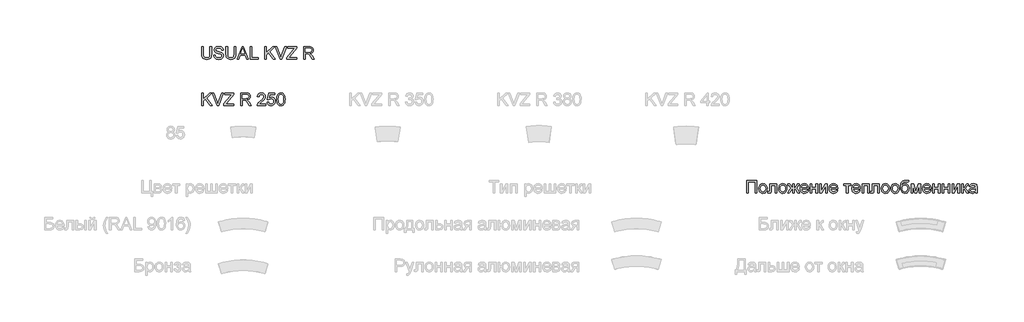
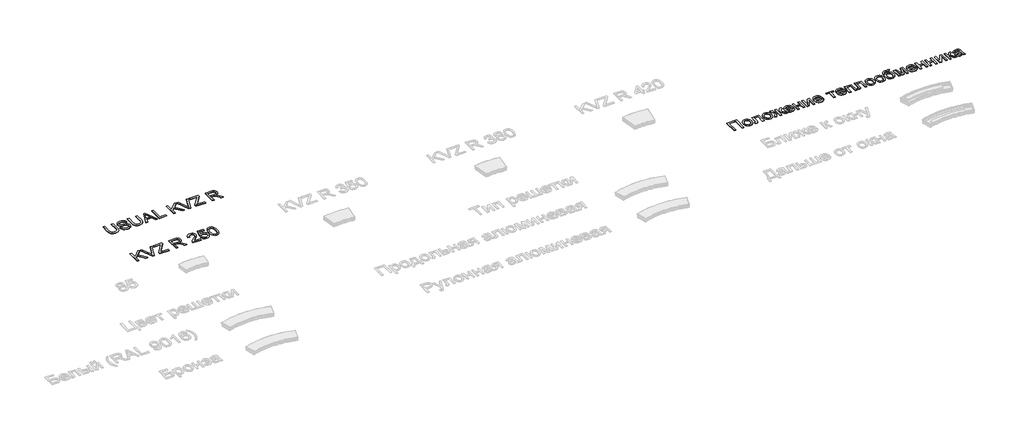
# One storey, part 8 of 9: 3 proxies.
"""IFC4 building model written with IfcOpenShell, lengths in millimetres."""

from ifc_helpers import new_model, si_unit, origin, origin_with_axes, place, context, project, spatial, polyline, outline, extrude, element, save

model = new_model("IFC4")

# Units and contexts
model_context = context("Model", 3, world=origin())
ifc_project = project(units=[si_unit("LENGTHUNIT", "METRE", prefix="MILLI")], contexts=[model_context])

# Site, building, storey
site = spatial("IfcSite", under=ifc_project)
building = spatial("IfcBuilding", under=site)
storey = spatial("IfcBuildingStorey", under=building, Name="Уровень 1", Elevation=0.0)

# Proxies
placement = place(None, origin())
element("IfcBuildingElementProxy", 1, Name="Текст модели 1", ObjectType="Текст модели 1", at=placement, inside=storey, context=model_context, shape_type="SweptSolid", body=[
    extrude(outline(polyline([(1233.0814119, 1658.8676202), (1270.7525282, 1658.8676202), (1270.7525282, 1485.0065893), (1268.1957483, 1444.2912495), (1260.5254087, 1412.9385065), (1246.196405, 1388.7502653), (1223.6636328, 1369.528431), (1192.8719098, 1356.9744579), (1153.7660537, 1352.7898002), (1115.5155233, 1356.431832), (1084.9353324, 1367.3579273), (1062.0162841, 1385.191007), (1046.7491813, 1409.5539921), (1038.1683338, 1442.2311103), (1035.3080513, 1485.0065893), (1035.3080513, 1658.8676202), (1072.9791676, 1658.8676202), (1072.9791676, 1486.3309645), (1074.8369717, 1452.4766239), (1080.4103839, 1428.904585), (1090.5087447, 1412.5798215), (1105.9413944, 1400.4673068), (1126.0645395, 1392.9625141), (1150.2343866, 1390.4609166), (1188.5492964, 1395.4089294), (1202.8920957, 1401.5939454), (1214.0251245, 1410.2529679), (1222.3622503, 1422.4298619), (1228.3173401, 1439.1684927), (1233.0814119, 1486.3309645), (1233.0814119, 1658.8676202)])), origin_with_axes(), (0.0, 0.0, 1.0), 10.0),
    extrude(outline(polyline([(1322.5503131, 1461.0942596), (1360.2214294, 1461.0942596), (1364.5440429, 1440.1893653), (1372.3615353, 1423.3863551), (1384.5568234, 1410.0506328), (1402.0128241, 1399.5476018), (1423.3499798, 1392.7325879), (1447.1887331, 1390.4609166), (1468.1764009, 1392.1807649), (1486.5521066, 1397.3403099), (1501.4421303, 1405.5072902), (1511.9727524, 1416.2494444), (1518.2359434, 1428.5826883), (1520.3236737, 1441.5229375), (1518.7601753, 1454.1320929), (1514.0696798, 1465.030597), (1504.5415361, 1474.3288144), (1488.4650929, 1482.1371098), (1433.6138875, 1496.5212958), (1397.6074372, 1506.0402424), (1374.5688272, 1515.0993365), (1355.8160425, 1527.7728713), (1342.5263055, 1543.1319446), (1334.6076455, 1560.8454626), (1331.9680922, 1580.5823317), (1335.2330449, 1602.6460543), (1345.027903, 1623.2198549), (1361.0951492, 1640.6574615), (1383.1772659, 1653.3126021), (1409.6831637, 1661.0105329), (1439.0217528, 1663.5765098), (1470.8067572, 1660.8909712), (1498.618636, 1652.8343555), (1521.4641079, 1639.5722096), (1538.3498915, 1621.2700803), (1549.0368635, 1599.0684019), (1553.2859005, 1574.1076085), (1515.6147842, 1574.1076085), (1508.6986027, 1596.5851985), (1494.2776285, 1612.8087944), (1471.7448563, 1622.6312437), (1440.4932808, 1625.9053935), (1408.5059413, 1622.6680319), (1386.5617803, 1612.9559472), (1373.8698515, 1598.6637317), (1369.6392085, 1581.6859776), (1372.6374468, 1567.2098211), (1381.6321615, 1555.566356), (1402.8957409, 1545.1552955), (1443.1420311, 1534.5235059), (1484.6759084, 1524.4251451), (1509.8022487, 1515.6143713), (1531.2773601, 1501.9475552), (1546.2593544, 1485.0801657), (1555.0609311, 1465.1961439), (1557.99479, 1442.4794307), (1554.6194727, 1419.2568797), (1544.4935208, 1397.4138863), (1528.0308015, 1378.6151163), (1505.6451821, 1364.5252359), (1478.7254171, 1355.7236592), (1448.6602611, 1352.7898002), (1411.7524999, 1355.9535854), (1381.3746442, 1365.4449409), (1357.1772059, 1381.3006549), (1338.8106973, 1403.5575156), (1327.0200794, 1430.6704186), (1322.5503131, 1461.0942596)])), origin_with_axes(), (0.0, 0.0, 1.0), 10.0),
    extrude(outline(polyline([(1812.2748251, 1658.8676202), (1849.9459414, 1658.8676202), (1849.9459414, 1485.0065893), (1847.3891615, 1444.2912495), (1839.7188219, 1412.9385065), (1825.3898182, 1388.7502653), (1802.857046, 1369.528431), (1772.065323, 1356.9744579), (1732.9594669, 1352.7898002), (1694.7089365, 1356.431832), (1664.1287456, 1367.3579273), (1641.2096973, 1385.191007), (1625.9425945, 1409.5539921), (1617.361747, 1442.2311103), (1614.5014645, 1485.0065893), (1614.5014645, 1658.8676202), (1652.1725808, 1658.8676202), (1652.1725808, 1486.3309645), (1654.0303849, 1452.4766239), (1659.6037971, 1428.904585), (1669.7021579, 1412.5798215), (1685.1348076, 1400.4673068), (1705.2579527, 1392.9625141), (1729.4277998, 1390.4609166), (1767.7427096, 1395.4089294), (1782.0855089, 1401.5939454), (1793.2185378, 1410.2529679), (1801.5556635, 1422.4298619), (1807.5107533, 1439.1684927), (1812.2748251, 1486.3309645), (1812.2748251, 1658.8676202)])), origin_with_axes(), (0.0, 0.0, 1.0), 10.0),
    extrude(outline(polyline([(1880.7744526, 1357.4986898), (2001.071865, 1658.8676202), (2033.151175, 1658.8676202), (2153.4485874, 1357.4986898), (2113.6437556, 1357.4986898), (2079.1364244, 1451.6764806), (1955.0130392, 1451.6764806), (1920.5792845, 1357.4986898), (1880.7744526, 1357.4986898)]), holes=[polyline([(1968.8454023, 1489.3475969), (2065.3776378, 1489.3475969), (2038.2279465, 1563.4390307), (2017.11152, 1621.1965039), (1998.3495383, 1569.9137538), (1968.8454023, 1489.3475969)])]), origin_with_axes(), (0.0, 0.0, 1.0), 10.0),
    extrude(outline(polyline([(2193.6948777, 1357.4986898), (2193.6948777, 1658.8676202), (2231.365994, 1658.8676202), (2231.365994, 1395.1698061), (2382.0504592, 1395.1698061), (2382.0504592, 1357.4986898), (2193.6948777, 1357.4986898)])), origin_with_axes(), (0.0, 0.0, 1.0), 10.0),
    extrude(outline(polyline([(2909.0046291, 1357.4986898), (2789.0750987, 1658.8676202), (2829.3949654, 1658.8676202), (2909.6668167, 1441.7436667), (2925.9272009, 1392.8153613), (2941.9668559, 1441.7436667), (3022.4594364, 1658.8676202), (3062.7793031, 1658.8676202), (2947.9265442, 1357.4986898), (2909.0046291, 1357.4986898)])), origin_with_axes(), (0.0, 0.0, 1.0), 10.0),
    extrude(outline(polyline([(2542.1527035, 1357.4986898), (2542.1527035, 1658.8676202), (2579.8238198, 1658.8676202), (2579.8238198, 1511.3469402), (2734.3342578, 1658.8676202), (2787.0149595, 1658.8676202), (2657.299768, 1534.9649643), (2791.7238491, 1357.4986898), (2745.6650233, 1357.4986898), (2630.5915352, 1509.5075302), (2579.8238198, 1461.0942596), (2579.8238198, 1357.4986898), (2542.1527035, 1357.4986898)])), origin_with_axes(), (0.0, 0.0, 1.0), 10.0),
    extrude(outline(polyline([(3074.2572214, 1357.4986898), (3074.2572214, 1396.5677577), (3228.3997773, 1585.2912212), (3257.6831842, 1621.1965039), (3093.0927795, 1621.1965039), (3093.0927795, 1658.8676202), (3304.9928087, 1658.8676202), (3304.9928087, 1621.1965039), (3136.2821257, 1414.6675518), (3120.3896236, 1395.1698061), (3309.7016983, 1395.1698061), (3309.7016983, 1357.4986898), (3074.2572214, 1357.4986898)])), origin_with_axes(), (0.0, 0.0, 1.0), 10.0),
    extrude(outline(polyline([(3469.8039426, 1357.4986898), (3469.8039426, 1658.8676202), (3599.6662869, 1658.8676202), (3634.5690912, 1656.8350722), (3659.9621459, 1650.7374281), (3678.5217925, 1639.4802391), (3692.9243726, 1621.9690561), (3702.1674078, 1600.2548214), (3705.2484195, 1576.3884769), (3700.1440568, 1546.7003999), (3684.8309688, 1522.0890944), (3673.2311896, 1512.0597115), (3658.8493028, 1504.0444826), (3621.7392066, 1494.0564864), (3643.1499387, 1477.943255), (3673.6841443, 1439.1684927), (3723.9368248, 1357.4986898), (3680.1588674, 1357.4986898), (3640.9426467, 1419.9650526), (3612.6157331, 1461.3149888), (3592.7133172, 1480.8495228), (3574.797464, 1488.0232217), (3552.9452735, 1489.3475969), (3507.4750589, 1489.3475969), (3507.4750589, 1357.4986898), (3469.8039426, 1357.4986898)]), holes=[polyline([(3507.4750589, 1527.0187132), (3591.7936122, 1527.0187132), (3616.0094445, 1528.3522854), (3634.7990174, 1532.3530021), (3648.9440801, 1539.2875777), (3659.2263819, 1549.4227267), (3665.4895729, 1561.6823942), (3667.5773032, 1574.9905253), (3663.5949806, 1593.366231), (3651.6480128, 1608.1734813), (3631.0926063, 1617.9407483), (3601.2849676, 1621.1965039), (3507.4750589, 1621.1965039), (3507.4750589, 1527.0187132)])]), origin_with_axes(), (0.0, 0.0, 1.0), 10.0),
])
element("IfcBuildingElementProxy", 2, Name="Текст модели 1", ObjectType="Текст модели 1", at=placement, inside=storey, context=model_context, shape_type="SweptSolid", body=[
    extrude(outline(polyline([(1035.3080513, 251.120589), (1035.3080513, 552.4895194), (1072.9791676, 552.4895194), (1072.9791676, 404.9688394), (1227.4896056, 552.4895194), (1280.1703073, 552.4895194), (1150.4551158, 428.5868634), (1284.8791968, 251.120589), (1238.820371, 251.120589), (1123.7468829, 403.1294294), (1072.9791676, 354.7161588), (1072.9791676, 251.120589), (1035.3080513, 251.120589)])), origin_with_axes(), (0.0, 0.0, 1.0), 10.0),
    extrude(outline(polyline([(1402.1599769, 251.120589), (1282.2304465, 552.4895194), (1322.5503131, 552.4895194), (1402.8221645, 335.3655659), (1419.0825487, 286.4372605), (1435.1222036, 335.3655659), (1515.6147842, 552.4895194), (1555.9346509, 552.4895194), (1441.081892, 251.120589), (1402.1599769, 251.120589)])), origin_with_axes(), (0.0, 0.0, 1.0), 10.0),
    extrude(outline(polyline([(1567.4125691, 251.120589), (1567.4125691, 290.1896569), (1721.5551251, 478.9131204), (1750.8385319, 514.8184031), (1586.2481273, 514.8184031), (1586.2481273, 552.4895194), (1798.1481565, 552.4895194), (1798.1481565, 514.8184031), (1629.4374735, 308.289451), (1613.5449713, 288.7917053), (1802.857046, 288.7917053), (1802.857046, 251.120589), (1567.4125691, 251.120589)])), origin_with_axes(), (0.0, 0.0, 1.0), 10.0),
    extrude(outline(polyline([(1962.9592903, 251.120589), (1962.9592903, 552.4895194), (2092.8216346, 552.4895194), (2127.7244389, 550.4569714), (2153.1174936, 544.3593273), (2171.6771403, 533.1021383), (2186.0797204, 515.5909553), (2195.3227555, 493.8767205), (2198.4037672, 470.0103761), (2193.2994046, 440.3222991), (2177.9863165, 415.7109936), (2166.3865373, 405.6816107), (2152.0046506, 397.6663817), (2114.8945543, 387.6783856), (2136.3052865, 371.5651542), (2166.8394921, 332.7903919), (2217.0921726, 251.120589), (2173.3142152, 251.120589), (2134.0979945, 313.5869517), (2105.7710809, 354.936888), (2085.8686649, 374.471422), (2067.9528118, 381.6451209), (2046.1006212, 382.969496), (2000.6304066, 382.969496), (2000.6304066, 251.120589), (1962.9592903, 251.120589)]), holes=[polyline([(2000.6304066, 420.6406123), (2084.9489599, 420.6406123), (2109.1647923, 421.9741846), (2127.9543652, 425.9749013), (2142.0994279, 432.9094769), (2152.3817296, 443.0446259), (2158.6449206, 455.3042933), (2160.7326509, 468.6124245), (2156.7503283, 486.9881302), (2144.8033605, 501.7953805), (2124.2479541, 511.5626475), (2094.4403154, 514.8184031), (2000.6304066, 514.8184031), (2000.6304066, 420.6406123)])]), origin_with_axes(), (0.0, 0.0, 1.0), 10.0),
    extrude(outline(polyline([(2560.9882617, 288.7917053), (2560.9882617, 251.120589), (2363.2149011, 251.120589), (2367.261603, 277.0930578), (2376.5506234, 297.3909469), (2390.1438631, 317.0818307), (2409.8071558, 337.6924195), (2437.3063349, 360.7494235), (2477.9572954, 396.8570414), (2502.3478717, 423.5100919), (2514.5431598, 445.1415532), (2518.6082558, 466.1844033), (2514.773086, 485.0475527), (2503.2675766, 500.7285227), (2485.5816497, 511.295933), (2463.2052274, 514.8184031), (2439.7067649, 511.3787065), (2421.4506209, 501.0596165), (2409.6692, 484.6704736), (2405.5949069, 463.0206182), (2367.9237906, 467.7295077), (2377.0564611, 504.1682194), (2385.6028197, 518.7041567), (2396.8025272, 530.7844817), (2410.3980662, 540.2804357), (2426.1319193, 547.06326), (2464.0145678, 552.4895194), (2484.2043915, 550.9812032), (2502.1731277, 546.4562547), (2517.9207764, 538.9146738), (2531.4473375, 528.3564605), (2542.3113526, 515.5633642), (2550.0713635, 501.3171339), (2554.72737, 485.6177697), (2556.2793721, 468.4652717), (2554.6055091, 450.448251), (2549.5839198, 432.74393), (2540.6719785, 414.7361063), (2527.3270591, 395.8085777), (2506.0542828, 373.2114261), (2473.3587704, 344.1947337), (2430.0222714, 307.9583572), (2413.0261232, 288.7917053), (2560.9882617, 288.7917053)])), origin_with_axes(), (0.0, 0.0, 1.0), 10.0),
    extrude(outline(polyline([(2598.659378, 331.1717111), (2636.3304943, 335.8806007), (2643.2466758, 313.265055), (2655.3132052, 297.0690502), (2672.4749003, 287.3293743), (2694.6765787, 284.0828157), (2721.6791172, 288.5985672), (2741.9126269, 302.1458217), (2754.5493734, 323.1610807), (2758.7616223, 350.0808457), (2754.8160879, 375.4279151), (2742.9794847, 394.8152963), (2723.1598422, 407.120949), (2695.2651899, 411.2228333), (2676.9906518, 409.5857584), (2662.1925986, 404.6745338), (2641.0393838, 387.6783856), (2603.3682675, 392.3872751), (2636.3304943, 547.7806299), (2782.30607, 547.7806299), (2782.30607, 510.1095136), (2666.7911235, 510.1095136), (2650.6778921, 427.1153355), (2677.5884601, 443.449296), (2705.786615, 448.8939496), (2724.1324302, 447.2062909), (2740.9837249, 442.143315), (2756.3404989, 433.7050217), (2770.2027523, 421.8914111), (2781.6783713, 407.4244517), (2789.875242, 391.0261117), (2794.7933645, 372.6963913), (2796.4327386, 352.4352904), (2790.5282326, 314.7641741), (2783.1476, 297.9703611), (2772.8147145, 282.5377114), (2757.1613356, 266.7325811), (2738.8959946, 255.4432024), (2718.0186913, 248.6695752), (2694.5294259, 246.4116994), (2657.5296943, 252.2150379), (2641.8510235, 259.469211), (2628.0531494, 269.6250533), (2616.5729319, 282.1767271), (2607.8472308, 296.6183947), (2598.659378, 331.1717111)])), origin_with_axes(), (0.0, 0.0, 1.0), 10.0),
    extrude(outline(polyline([(2829.3949654, 399.377033), (2832.1632774, 447.6155596), (2840.4682134, 486.0868193), (2854.227, 515.3794232), (2873.3568638, 536.0819824), (2897.9957604, 548.3876352), (2928.2816457, 552.4895194), (2951.4949996, 550.0614982), (2972.2803323, 542.7774347), (2989.6627566, 530.9224375), (3002.6673851, 514.7816149), (3012.4898344, 494.4929229), (3020.3257209, 470.1943171), (3025.4576747, 439.3382148), (3027.168326, 399.377033), (3024.4276051, 351.4144179), (3016.2054425, 313.0351288), (3002.5294293, 283.7149337), (2983.4271567, 262.929601), (2958.7330778, 250.5411748), (2928.2816457, 246.4116994), (2907.5331011, 248.2051242), (2889.1390014, 253.5853983), (2873.0993464, 262.552522), (2859.4141362, 275.1064951), (2846.2807489, 297.8002156), (2836.8997581, 326.0765455), (2831.2711635, 359.9354846), (2829.3949654, 399.377033)]), holes=[polyline([(2867.0660817, 399.4506094), (2871.4806656, 340.1940171), (2876.9988955, 319.9260184), (2884.7244174, 305.8982181), (2904.4428924, 289.5366663), (2928.2816457, 284.0828157), (2952.120399, 289.5550604), (2971.8388739, 305.9717944), (2979.5643958, 320.0225874), (2985.0826257, 340.2859875), (2989.4972097, 399.4506094), (2985.2297785, 457.3736296), (2979.8954896, 477.5749496), (2972.4274851, 491.936143), (2952.7457984, 509.0978381), (2927.8401873, 514.8184031), (2904.2589514, 509.7784198), (2885.3130286, 494.6584698), (2877.3299893, 479.023485), (2871.6278184, 457.9438467), (2867.0660817, 399.4506094)])]), origin_with_axes(), (0.0, 0.0, 1.0), 10.0),
])
element("IfcBuildingElementProxy", 3, Name="Текст модели 1", ObjectType="Текст модели 1", at=placement, inside=storey, context=model_context, shape_type="SweptSolid", body=[
    extrude(outline(polyline([(14066.2626064, -1545.5091747), (14301.7070833, -1545.5091747), (14301.7070833, -1846.8781051), (14264.035967, -1846.8781051), (14264.035967, -1583.180291), (14103.9337227, -1583.180291), (14103.9337227, -1846.8781051), (14066.2626064, -1846.8781051), (14066.2626064, -1545.5091747)])), origin_with_axes(), (0.0, 0.0, 1.0), 10.0),
    extrude(outline(polyline([(14353.5048682, -1736.219201), (14355.5420148, -1707.556595), (14361.6534544, -1682.8579176), (14371.8391872, -1662.1231686), (14386.099213, -1645.3523482), (14400.4558079, -1634.6331866), (14416.3023248, -1626.9766425), (14433.6387638, -1622.3827161), (14452.4651249, -1620.8514073), (14473.2481584, -1622.7161092), (14492.0400306, -1628.3102148), (14508.8407414, -1637.6337241), (14523.650291, -1650.6866371), (14535.7375138, -1667.0274955), (14544.3712444, -1686.2148408), (14549.5514827, -1708.248673), (14551.2782288, -1733.1289922), (14548.2248083, -1771.1863846), (14539.0645466, -1800.1570918), (14524.0641582, -1821.8529324), (14503.4903577, -1838.0857255), (14479.0537961, -1848.2116774), (14452.4651249, -1851.5869947), (14431.3785888, -1849.7291906), (14412.4119727, -1844.1557784), (14395.5652766, -1834.866758), (14380.8385005, -1821.8621295), (14368.8800364, -1805.362622), (14360.3382763, -1785.5889647), (14355.2132202, -1762.5411577), (14353.5048682, -1736.219201)]), holes=[polyline([(14391.1759845, -1736.1456246), (14395.5353862, -1770.2390885), (14408.6135911, -1794.5284972), (14428.2952778, -1809.0690331), (14452.4651249, -1813.9158784), (14476.5246074, -1809.0414419), (14496.169506, -1794.4181326), (14509.2477109, -1769.8068272), (14513.6071125, -1734.9684022), (14509.2201197, -1701.8682197), (14496.0591414, -1677.9099048), (14476.3866517, -1663.3693689), (14452.4651249, -1658.5225236), (14428.2952778, -1663.3509748), (14408.6135911, -1677.8363284), (14395.5353862, -1702.0705548), (14391.1759845, -1736.1456246)])]), origin_with_axes(), (0.0, 0.0, 1.0), 10.0),
    extrude(outline(polyline([(14612.4937928, -1625.5602968), (14782.0138162, -1625.5602968), (14782.0138162, -1846.6573759), (14744.3426999, -1846.6573759), (14744.3426999, -1663.2314132), (14650.1649091, -1663.2314132), (14650.1649091, -1768.8135458), (14647.6265234, -1817.5211219), (14642.8716486, -1828.5483847), (14633.6837958, -1838.0857255), (14619.7410681, -1844.6800102), (14600.721569, -1846.8781051), (14570.113787, -1844.9651188), (14570.113787, -1809.2069888), (14586.9627824, -1809.2069888), (14603.9957187, -1806.8893323), (14610.8015357, -1799.5316924), (14612.4937928, -1766.6798302), (14612.4937928, -1625.5602968)])), origin_with_axes(), (0.0, 0.0, 1.0), 10.0),
    extrude(outline(polyline([(14829.1027116, -1736.219201), (14831.1398581, -1707.556595), (14837.2512978, -1682.8579176), (14847.4370305, -1662.1231686), (14861.6970564, -1645.3523482), (14876.0536512, -1634.6331866), (14891.9001682, -1626.9766425), (14909.2366072, -1622.3827161), (14928.0629683, -1620.8514073), (14948.8460018, -1622.7161092), (14967.6378739, -1628.3102148), (14984.4385848, -1637.6337241), (14999.2481344, -1650.6866371), (15011.3353572, -1667.0274955), (15019.9690877, -1686.2148408), (15025.1493261, -1708.248673), (15026.8760722, -1733.1289922), (15023.8226516, -1771.1863846), (15014.66239, -1800.1570918), (14999.6620016, -1821.8529324), (14979.088201, -1838.0857255), (14954.6516395, -1848.2116774), (14928.0629683, -1851.5869947), (14906.9764322, -1849.7291906), (14888.0098161, -1844.1557784), (14871.16312, -1834.866758), (14856.4363438, -1821.8621295), (14844.4778797, -1805.362622), (14835.9361197, -1785.5889647), (14830.8110636, -1762.5411577), (14829.1027116, -1736.219201)]), holes=[polyline([(14866.7738279, -1736.1456246), (14871.1332295, -1770.2390885), (14884.2114345, -1794.5284972), (14903.8931212, -1809.0690331), (14928.0629683, -1813.9158784), (14952.1224508, -1809.0414419), (14971.7673493, -1794.4181326), (14984.8455543, -1769.8068272), (14989.2049559, -1734.9684022), (14984.8179631, -1701.8682197), (14971.6569847, -1677.9099048), (14951.984495, -1663.3693689), (14928.0629683, -1658.5225236), (14903.8931212, -1663.3509748), (14884.2114345, -1677.8363284), (14871.1332295, -1702.0705548), (14866.7738279, -1736.1456246)])]), origin_with_axes(), (0.0, 0.0, 1.0), 10.0),
    extrude(outline(polyline([(15205.8138747, -1625.5602968), (15205.8138747, -1719.7380876), (15219.1036117, -1717.7975101), (15227.7764298, -1711.9757775), (15248.5617625, -1671.692699), (15261.5296028, -1646.5847529), (15273.357009, -1633.0650895), (15287.7228009, -1627.436495), (15308.6001041, -1625.5602968), (15323.5361131, -1625.5602968), (15323.5361131, -1663.4521423), (15313.1618408, -1663.2314132), (15293.7376715, -1667.1309623), (15280.2731905, -1691.5583268), (15264.6382057, -1718.340136), (15242.3077686, -1731.9517699), (15254.7007933, -1737.2538691), (15266.9374682, -1746.6118674), (15290.9417683, -1777.4955609), (15332.9538922, -1846.8781051), (15289.764546, -1846.8781051), (15248.4146097, -1778.452054), (15237.1114354, -1760.4902156), (15227.3349714, -1750.0147758), (15217.4481428, -1744.9655954), (15205.8138747, -1743.2825353), (15205.8138747, -1846.8781051), (15168.1427583, -1846.8781051), (15168.1427583, -1743.2825353), (15156.6004607, -1744.9288072), (15146.695238, -1749.867623), (15136.8451976, -1760.2694864), (15125.4684469, -1778.3049012), (15084.1185106, -1846.8781051), (15041.0027408, -1846.8781051), (15082.8677119, -1777.4955609), (15107.055953, -1746.6118674), (15119.3570073, -1737.2538691), (15131.7960172, -1731.9517699), (15117.4118312, -1724.7412827), (15108.1044167, -1716.9421844), (15087.7973306, -1678.314575), (15077.8645167, -1665.5858579), (15061.6041325, -1663.010684), (15050.4205199, -1663.2314132), (15050.4205199, -1625.5602968), (15056.0859026, -1625.5602968), (15089.1217058, -1627.9147416), (15106.2650068, -1637.9211319), (15125.4684469, -1671.692699), (15146.0330504, -1711.7182601), (15154.7058685, -1717.7331307), (15168.1427583, -1719.7380876), (15168.1427583, -1625.5602968), (15205.8138747, -1625.5602968)])), origin_with_axes(), (0.0, 0.0, 1.0), 10.0),
    extrude(outline(polyline([(15506.7413467, -1780.9536516), (15543.676699, -1785.6625411), (15530.3685678, -1813.4928141), (15509.1325797, -1834.2965409), (15480.4469811, -1847.2643812), (15444.7900187, -1851.5869947), (15421.4157165, -1849.7222928), (15400.588997, -1844.1281872), (15382.3098604, -1834.8046779), (15366.5783065, -1821.7517649), (15353.9277644, -1805.3327316), (15344.8916629, -1785.9108615), (15339.470002, -1763.4861546), (15337.6627817, -1738.058611), (15339.4883961, -1711.7688439), (15344.9652393, -1688.5968767), (15354.0933113, -1668.5427095), (15366.8726121, -1651.6063421), (15382.5627792, -1638.1510581), (15400.4234501, -1628.540141), (15420.4546247, -1622.7735907), (15442.6563031, -1620.8514073), (15464.1429109, -1622.7689922), (15483.5739781, -1628.5217469), (15500.9495045, -1638.1096714), (15516.2694904, -1651.5327657), (15528.775179, -1668.4323449), (15537.7078137, -1688.4497239), (15543.0673945, -1711.5849029), (15544.8539214, -1737.8378818), (15544.6331922, -1747.9914248), (15375.333898, -1747.9914248), (15381.8546064, -1776.1895798), (15397.0021475, -1796.9197302), (15418.8635351, -1809.6668413), (15445.5257827, -1813.9158784), (15465.5753514, -1811.9477097), (15482.461135, -1806.0432037), (15496.1831334, -1795.8344783), (15506.7413467, -1780.9536516)]), holes=[polyline([(15375.333898, -1710.3203085), (15507.1828051, -1710.3203085), (15502.0876395, -1690.4178926), (15492.0996433, -1676.1808594), (15470.1370882, -1662.9371076), (15442.5091504, -1658.5225236), (15417.1160956, -1662.0449937), (15396.1192308, -1672.612404), (15381.5235126, -1689.0843204), (15375.333898, -1710.3203085)])]), origin_with_axes(), (0.0, 0.0, 1.0), 10.0),
    extrude(outline(polyline([(15582.5250377, -1625.5602968), (15620.196154, -1625.5602968), (15620.196154, -1710.3203085), (15719.0828343, -1710.3203085), (15719.0828343, -1625.5602968), (15756.7539506, -1625.5602968), (15756.7539506, -1846.8781051), (15719.0828343, -1846.8781051), (15719.0828343, -1747.9914248), (15620.196154, -1747.9914248), (15620.196154, -1846.8781051), (15582.5250377, -1846.8781051), (15582.5250377, -1625.5602968)])), origin_with_axes(), (0.0, 0.0, 1.0), 10.0),
    extrude(outline(polyline([(15813.2606251, -1625.5602968), (15850.9317414, -1625.5602968), (15850.9317414, -1794.3445562), (15943.4908514, -1625.5602968), (15992.1984275, -1625.5602968), (15992.1984275, -1846.8781051), (15954.5273112, -1846.8781051), (15954.5273112, -1679.1239153), (15862.5568124, -1846.8781051), (15813.2606251, -1846.8781051), (15813.2606251, -1625.5602968)])), origin_with_axes(), (0.0, 0.0, 1.0), 10.0),
    extrude(outline(polyline([(16203.6569984, -1780.9536516), (16240.5923507, -1785.6625411), (16227.2842195, -1813.4928141), (16206.0482313, -1834.2965409), (16177.3626328, -1847.2643812), (16141.7056704, -1851.5869947), (16118.3313681, -1849.7222928), (16097.5046487, -1844.1281872), (16079.225512, -1834.8046779), (16063.4939582, -1821.7517649), (16050.8434161, -1805.3327316), (16041.8073146, -1785.9108615), (16036.3856537, -1763.4861546), (16034.5784334, -1738.058611), (16036.4040478, -1711.7688439), (16041.880891, -1688.5968767), (16051.008963, -1668.5427095), (16063.7882638, -1651.6063421), (16079.4784309, -1638.1510581), (16097.3391018, -1628.540141), (16117.3702764, -1622.7735907), (16139.5719548, -1620.8514073), (16161.0585626, -1622.7689922), (16180.4896297, -1628.5217469), (16197.8651562, -1638.1096714), (16213.185142, -1651.5327657), (16225.6908306, -1668.4323449), (16234.6234653, -1688.4497239), (16239.9830461, -1711.5849029), (16241.7695731, -1737.8378818), (16241.5488439, -1747.9914248), (16072.2495497, -1747.9914248), (16078.7702581, -1776.1895798), (16093.9177992, -1796.9197302), (16115.7791868, -1809.6668413), (16142.4414344, -1813.9158784), (16162.4910031, -1811.9477097), (16179.3767867, -1806.0432037), (16193.0987851, -1795.8344783), (16203.6569984, -1780.9536516)]), holes=[polyline([(16072.2495497, -1710.3203085), (16204.0984568, -1710.3203085), (16199.0032911, -1690.4178926), (16189.015295, -1676.1808594), (16167.0527399, -1662.9371076), (16139.424802, -1658.5225236), (16114.0317473, -1662.0449937), (16093.0348824, -1672.612404), (16078.4391643, -1689.0843204), (16072.2495497, -1710.3203085)])]), origin_with_axes(), (0.0, 0.0, 1.0), 10.0),
    extrude(outline(polyline([(16378.3273697, -1625.5602968), (16557.2651721, -1625.5602968), (16557.2651721, -1663.2314132), (16486.6318291, -1663.2314132), (16486.6318291, -1846.8781051), (16448.9607128, -1846.8781051), (16448.9607128, -1663.2314132), (16378.3273697, -1663.2314132), (16378.3273697, -1625.5602968)])), origin_with_axes(), (0.0, 0.0, 1.0), 10.0),
    extrude(outline(polyline([(16745.1792953, -1780.9536516), (16782.1146476, -1785.6625411), (16768.8065164, -1813.4928141), (16747.5705282, -1834.2965409), (16718.8849297, -1847.2643812), (16683.2279673, -1851.5869947), (16659.853665, -1849.7222928), (16639.0269456, -1844.1281872), (16620.7478089, -1834.8046779), (16605.0162551, -1821.7517649), (16592.365713, -1805.3327316), (16583.3296115, -1785.9108615), (16577.9079506, -1763.4861546), (16576.1007303, -1738.058611), (16577.9263447, -1711.7688439), (16583.4031879, -1688.5968767), (16592.5312599, -1668.5427095), (16605.3105607, -1651.6063421), (16621.0007278, -1638.1510581), (16638.8613987, -1628.540141), (16658.8925733, -1622.7735907), (16681.0942517, -1620.8514073), (16702.5808595, -1622.7689922), (16722.0119266, -1628.5217469), (16739.3874531, -1638.1096714), (16754.7074389, -1651.5327657), (16767.2131275, -1668.4323449), (16776.1457622, -1688.4497239), (16781.505343, -1711.5849029), (16783.29187, -1737.8378818), (16783.0711408, -1747.9914248), (16613.7718466, -1747.9914248), (16620.292555, -1776.1895798), (16635.4400961, -1796.9197302), (16657.3014837, -1809.6668413), (16683.9637313, -1813.9158784), (16704.0133, -1811.9477097), (16720.8990836, -1806.0432037), (16734.621082, -1795.8344783), (16745.1792953, -1780.9536516)]), holes=[polyline([(16613.7718466, -1710.3203085), (16745.6207537, -1710.3203085), (16740.525588, -1690.4178926), (16730.5375919, -1676.1808594), (16708.5750368, -1662.9371076), (16680.9470989, -1658.5225236), (16655.5540442, -1662.0449937), (16634.5571793, -1672.612404), (16619.9614612, -1689.0843204), (16613.7718466, -1710.3203085)])]), origin_with_axes(), (0.0, 0.0, 1.0), 10.0),
    extrude(outline(polyline([(16820.9629863, -1625.5602968), (16990.4830097, -1625.5602968), (16990.4830097, -1846.8781051), (16952.8118933, -1846.8781051), (16952.8118933, -1663.2314132), (16858.6341026, -1663.2314132), (16858.6341026, -1846.8781051), (16820.9629863, -1846.8781051), (16820.9629863, -1625.5602968)])), origin_with_axes(), (0.0, 0.0, 1.0), 10.0),
    extrude(outline(polyline([(17065.8252423, -1625.5602968), (17235.3452656, -1625.5602968), (17235.3452656, -1846.6573759), (17197.6741493, -1846.6573759), (17197.6741493, -1663.2314132), (17103.4963586, -1663.2314132), (17103.4963586, -1768.8135458), (17100.9579728, -1817.5211219), (17096.203098, -1828.5483847), (17087.0152452, -1838.0857255), (17073.0725176, -1844.6800102), (17054.0530184, -1846.8781051), (17023.4452364, -1844.9651188), (17023.4452364, -1809.2069888), (17040.2942318, -1809.2069888), (17057.3271682, -1806.8893323), (17064.1329851, -1799.5316924), (17065.8252423, -1766.6798302), (17065.8252423, -1625.5602968)])), origin_with_axes(), (0.0, 0.0, 1.0), 10.0),
    extrude(outline(polyline([(17282.434161, -1736.219201), (17284.4713076, -1707.556595), (17290.5827472, -1682.8579176), (17300.76848, -1662.1231686), (17315.0285058, -1645.3523482), (17329.3851007, -1634.6331866), (17345.2316176, -1626.9766425), (17362.5680566, -1622.3827161), (17381.3944177, -1620.8514073), (17402.1774512, -1622.7161092), (17420.9693234, -1628.3102148), (17437.7700342, -1637.6337241), (17452.5795838, -1650.6866371), (17464.6668066, -1667.0274955), (17473.3005372, -1686.2148408), (17478.4807755, -1708.248673), (17480.2075216, -1733.1289922), (17477.1541011, -1771.1863846), (17467.9938394, -1800.1570918), (17452.993451, -1821.8529324), (17432.4196505, -1838.0857255), (17407.9830889, -1848.2116774), (17381.3944177, -1851.5869947), (17360.3078816, -1849.7291906), (17341.3412655, -1844.1557784), (17324.4945694, -1834.866758), (17309.7677933, -1821.8621295), (17297.8093292, -1805.362622), (17289.2675691, -1785.5889647), (17284.142513, -1762.5411577), (17282.434161, -1736.219201)]), holes=[polyline([(17320.1052773, -1736.1456246), (17324.464679, -1770.2390885), (17337.5428839, -1794.5284972), (17357.2245706, -1809.0690331), (17381.3944177, -1813.9158784), (17405.4539002, -1809.0414419), (17425.0987988, -1794.4181326), (17438.1770037, -1769.8068272), (17442.5364053, -1734.9684022), (17438.1494125, -1701.8682197), (17424.9884342, -1677.9099048), (17405.3159445, -1663.3693689), (17381.3944177, -1658.5225236), (17357.2245706, -1663.3509748), (17337.5428839, -1677.8363284), (17324.464679, -1702.0705548), (17320.1052773, -1736.1456246)])]), origin_with_axes(), (0.0, 0.0, 1.0), 10.0),
    extrude(outline(polyline([(17513.1697484, -1736.219201), (17515.206895, -1707.556595), (17521.3183346, -1682.8579176), (17531.5040673, -1662.1231686), (17545.7640932, -1645.3523482), (17560.120688, -1634.6331866), (17575.967205, -1626.9766425), (17593.303644, -1622.3827161), (17612.1300051, -1620.8514073), (17632.9130386, -1622.7161092), (17651.7049107, -1628.3102148), (17668.5056216, -1637.6337241), (17683.3151712, -1650.6866371), (17695.402394, -1667.0274955), (17704.0361246, -1686.2148408), (17709.2163629, -1708.248673), (17710.943109, -1733.1289922), (17707.8896885, -1771.1863846), (17698.7294268, -1800.1570918), (17683.7290384, -1821.8529324), (17663.1552378, -1838.0857255), (17638.7186763, -1848.2116774), (17612.1300051, -1851.5869947), (17591.043469, -1849.7291906), (17572.0768529, -1844.1557784), (17555.2301568, -1834.866758), (17540.5033806, -1821.8621295), (17528.5449165, -1805.362622), (17520.0031565, -1785.5889647), (17514.8781004, -1762.5411577), (17513.1697484, -1736.219201)]), holes=[polyline([(17550.8408647, -1736.1456246), (17555.2002664, -1770.2390885), (17568.2784713, -1794.5284972), (17587.960158, -1809.0690331), (17612.1300051, -1813.9158784), (17636.1894876, -1809.0414419), (17655.8343861, -1794.4181326), (17668.9125911, -1769.8068272), (17673.2719927, -1734.9684022), (17668.8849999, -1701.8682197), (17655.7240215, -1677.9099048), (17636.0515318, -1663.3693689), (17612.1300051, -1658.5225236), (17587.960158, -1663.3509748), (17568.2784713, -1677.8363284), (17555.2002664, -1702.0705548), (17550.8408647, -1736.1456246)])]), origin_with_axes(), (0.0, 0.0, 1.0), 10.0),
    extrude(outline(polyline([(17908.7164696, -1540.8002852), (17941.6786964, -1540.8002852), (17938.110241, -1558.7069413), (17931.9666117, -1570.1940566), (17923.4501435, -1576.9906764), (17912.7631716, -1580.8258462), (17866.6307694, -1583.180291), (17828.3250566, -1585.3507948), (17804.4955004, -1591.8623061), (17790.2400731, -1603.1562833), (17780.6567471, -1619.6741849), (17775.0189555, -1641.5447695), (17772.6001314, -1668.8967959), (17787.7476726, -1647.8539458), (17805.2312644, -1632.8443604), (17825.069301, -1623.8496456), (17847.2801764, -1620.8514073), (17867.8033932, -1622.7574959), (17886.478003, -1628.4757617), (17903.3040058, -1638.0062046), (17918.2814015, -1651.3488247), (17930.5778572, -1667.942602), (17939.3610398, -1687.2265163), (17944.6309494, -1709.2005677), (17946.3875859, -1733.8647562), (17942.901904, -1769.8252213), (17932.4448583, -1798.6855638), (17917.2053467, -1821.1171684), (17899.3722669, -1837.7914199), (17876.7843124, -1848.138101), (17847.2801764, -1851.5869947), (17813.278683, -1847.1448196), (17787.7936578, -1833.8182943), (17769.0408731, -1813.5663905), (17755.2361012, -1788.3480797), (17746.7380271, -1750.3734608), (17743.9053358, -1691.8526324), (17745.6918627, -1652.1880555), (17751.0514435, -1619.5730174), (17759.9840782, -1594.007518), (17772.4897668, -1575.4915573), (17788.7018665, -1562.3742649), (17808.7537345, -1553.0047703), (17832.6453708, -1547.3830736), (17860.3767755, -1545.5091747), (17902.3153229, -1544.6630461), (17908.7164696, -1540.8002852)]), holes=[polyline([(17908.7164696, -1732.6875338), (17904.6329795, -1703.0454421), (17892.382509, -1679.3078563), (17872.7008223, -1663.7188568), (17846.3236832, -1658.5225236), (17818.8245041, -1664.0131624), (17807.7374605, -1670.8764609), (17798.4254475, -1680.4850787), (17785.7887009, -1706.1356508), (17781.5764521, -1739.162257), (17786.2301593, -1771.1771876), (17800.191281, -1794.67565), (17820.9766138, -1809.1058213), (17846.102954, -1813.9158784), (17871.358053, -1808.3516632), (17891.3524394, -1791.6590177), (17904.3754621, -1765.7877164), (17908.7164696, -1732.6875338)])]), origin_with_axes(), (0.0, 0.0, 1.0), 10.0),
    extrude(outline(polyline([(17993.4764813, -1625.5602968), (18058.2972889, -1625.5602968), (18108.2556638, -1802.7322657), (18162.1135879, -1625.5602968), (18224.2120687, -1625.5602968), (18224.2120687, -1846.8781051), (18186.5409524, -1846.8781051), (18186.5409524, -1668.6760667), (18132.3887227, -1846.8781051), (18082.9453825, -1846.8781051), (18031.1475976, -1660.1412044), (18031.1475976, -1846.8781051), (17993.4764813, -1846.8781051), (17993.4764813, -1625.5602968)])), origin_with_axes(), (0.0, 0.0, 1.0), 10.0),
    extrude(outline(polyline([(18435.6706395, -1780.9536516), (18472.6059918, -1785.6625411), (18459.2978606, -1813.4928141), (18438.0618725, -1834.2965409), (18409.3762739, -1847.2643812), (18373.7193115, -1851.5869947), (18350.3450093, -1849.7222928), (18329.5182898, -1844.1281872), (18311.2391532, -1834.8046779), (18295.5075993, -1821.7517649), (18282.8570572, -1805.3327316), (18273.8209557, -1785.9108615), (18268.3992948, -1763.4861546), (18266.5920745, -1738.058611), (18268.4176889, -1711.7688439), (18273.8945321, -1688.5968767), (18283.0226041, -1668.5427095), (18295.8019049, -1651.6063421), (18311.492072, -1638.1510581), (18329.3527429, -1628.540141), (18349.3839175, -1622.7735907), (18371.5855959, -1620.8514073), (18393.0722037, -1622.7689922), (18412.5032709, -1628.5217469), (18429.8787973, -1638.1096714), (18445.1987832, -1651.5327657), (18457.7044718, -1668.4323449), (18466.6371065, -1688.4497239), (18471.9966873, -1711.5849029), (18473.7832142, -1737.8378818), (18473.562485, -1747.9914248), (18304.2631908, -1747.9914248), (18310.7838992, -1776.1895798), (18325.9314403, -1796.9197302), (18347.7928279, -1809.6668413), (18374.4550755, -1813.9158784), (18394.5046442, -1811.9477097), (18411.3904278, -1806.0432037), (18425.1124262, -1795.8344783), (18435.6706395, -1780.9536516)]), holes=[polyline([(18304.2631908, -1710.3203085), (18436.1120979, -1710.3203085), (18431.0169323, -1690.4178926), (18421.0289361, -1676.1808594), (18399.066381, -1662.9371076), (18371.4384432, -1658.5225236), (18346.0453884, -1662.0449937), (18325.0485236, -1672.612404), (18310.4528054, -1689.0843204), (18304.2631908, -1710.3203085)])]), origin_with_axes(), (0.0, 0.0, 1.0), 10.0),
    extrude(outline(polyline([(18511.4543305, -1625.5602968), (18549.1254468, -1625.5602968), (18549.1254468, -1710.3203085), (18648.0121271, -1710.3203085), (18648.0121271, -1625.5602968), (18685.6832434, -1625.5602968), (18685.6832434, -1846.8781051), (18648.0121271, -1846.8781051), (18648.0121271, -1747.9914248), (18549.1254468, -1747.9914248), (18549.1254468, -1846.8781051), (18511.4543305, -1846.8781051), (18511.4543305, -1625.5602968)])), origin_with_axes(), (0.0, 0.0, 1.0), 10.0),
    extrude(outline(polyline([(18742.1899179, -1625.5602968), (18779.8610342, -1625.5602968), (18779.8610342, -1710.3203085), (18878.7477145, -1710.3203085), (18878.7477145, -1625.5602968), (18916.4188308, -1625.5602968), (18916.4188308, -1846.8781051), (18878.7477145, -1846.8781051), (18878.7477145, -1747.9914248), (18779.8610342, -1747.9914248), (18779.8610342, -1846.8781051), (18742.1899179, -1846.8781051), (18742.1899179, -1625.5602968)])), origin_with_axes(), (0.0, 0.0, 1.0), 10.0),
    extrude(outline(polyline([(18972.9255053, -1625.5602968), (19010.5966216, -1625.5602968), (19010.5966216, -1794.3445562), (19103.1557316, -1625.5602968), (19151.8633077, -1625.5602968), (19151.8633077, -1846.8781051), (19114.1921914, -1846.8781051), (19114.1921914, -1679.1239153), (19022.2216926, -1846.8781051), (18972.9255053, -1846.8781051), (18972.9255053, -1625.5602968)])), origin_with_axes(), (0.0, 0.0, 1.0), 10.0),
    extrude(outline(polyline([(19208.3699822, -1625.5602968), (19246.0410985, -1625.5602968), (19246.0410985, -1719.7380876), (19261.3633836, -1718.0458304), (19271.2778034, -1712.9690589), (19280.0517889, -1699.7253071), (19291.9527715, -1673.532109), (19309.1328607, -1639.5030245), (19324.2895989, -1628.4297764), (19351.8439603, -1625.5602968), (19359.0544474, -1625.5602968), (19359.0544474, -1663.4521423), (19348.9009043, -1663.2314132), (19330.5068046, -1667.2045387), (19317.5573583, -1691.9997852), (19302.3638319, -1718.8183826), (19281.0634644, -1731.9517699), (19293.0012352, -1737.2538691), (19304.8286413, -1746.6118674), (19328.1523598, -1777.4955609), (19368.4722265, -1846.8781051), (19325.6507622, -1846.8781051), (19286.140236, -1778.9670888), (19266.2746082, -1750.235505), (19256.9855878, -1745.0207777), (19246.0410985, -1743.2825353), (19246.0410985, -1846.8781051), (19208.3699822, -1846.8781051), (19208.3699822, -1625.5602968)])), origin_with_axes(), (0.0, 0.0, 1.0), 10.0),
    extrude(outline(polyline([(19533.2833603, -1818.6247679), (19515.2847337, -1834.0574176), (19496.7526782, -1844.1557784), (19477.2641295, -1849.7291906), (19456.3960233, -1851.5869947), (19424.9145216, -1847.1172284), (19401.6919706, -1833.7079297), (19387.372164, -1813.3456613), (19382.5988951, -1788.0169859), (19384.4015169, -1772.4003952), (19389.8093822, -1758.2185443), (19398.1511064, -1746.0784385), (19408.755305, -1736.587083), (19435.132444, -1724.226248), (19467.7267888, -1718.5608652), (19506.2440337, -1712.6011769), (19533.0626311, -1705.611419), (19533.2833603, -1697.2237095), (19530.6897923, -1680.4115023), (19522.9090881, -1669.4118307), (19505.5082697, -1661.2448504), (19481.2648462, -1658.5225236), (19458.8240445, -1660.3343424), (19443.1522715, -1665.7697989), (19432.4652995, -1675.8221744), (19424.9789009, -1691.4847504), (19387.3077846, -1686.7758608), (19393.8468871, -1666.1744691), (19403.604957, -1649.9876613), (19417.4925023, -1637.6084322), (19436.420031, -1628.4297764), (19459.5690055, -1622.7459996), (19486.1208885, -1620.8514073), (19511.5875197, -1622.5252704), (19531.7750441, -1627.5468596), (19546.9961617, -1635.0976376), (19557.563572, -1644.3590668), (19564.571724, -1655.8093939), (19569.1150666, -1669.9268655), (19570.9544766, -1702.8890922), (19570.9544766, -1749.7572584), (19572.867463, -1815.2034654), (19580.3722557, -1846.8781051), (19542.7011394, -1846.8781051), (19533.2833603, -1818.6247679)]), holes=[polyline([(19533.2833603, -1743.2825353), (19472.5092547, -1754.83403), (19440.0988509, -1760.9408711), (19425.4203593, -1770.8736849), (19420.2700114, -1785.3682356), (19423.0751116, -1796.5702423), (19431.4904123, -1805.7488981), (19445.3319723, -1811.8741333), (19464.4158508, -1813.9158784), (19484.6493606, -1811.6626012), (19502.5284255, -1804.9027695), (19517.0229761, -1794.9423645), (19527.1029428, -1783.0873672), (19531.572709, -1770.8736849), (19533.0626311, -1753.9511132), (19533.2833603, -1743.2825353)])]), origin_with_axes(), (0.0, 0.0, 1.0), 10.0),
])

save(model, "model.ifc")
